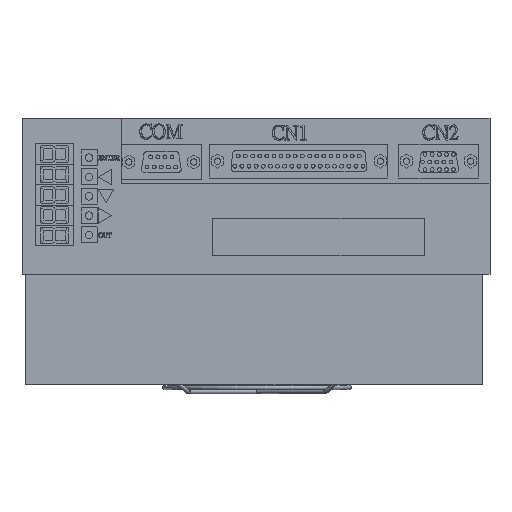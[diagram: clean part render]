
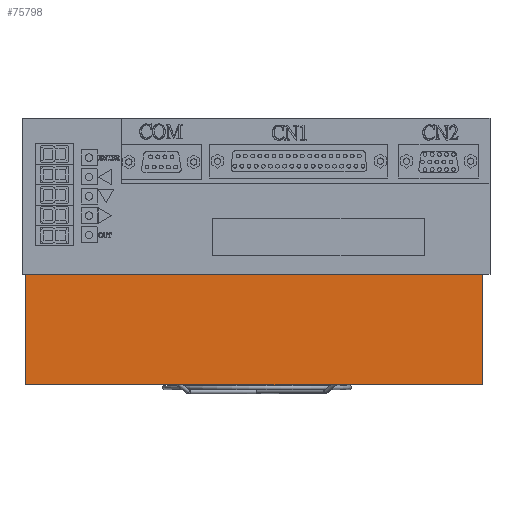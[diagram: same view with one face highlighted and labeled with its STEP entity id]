
A CAD part, front view. The second image highlights one B-rep face of the part: STEP entity #75798.
In plain terms, the highlighted planar face has unit normal (0, -1, 0).
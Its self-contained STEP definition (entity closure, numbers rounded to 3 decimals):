
#2069=ORIENTED_EDGE('',*,*,#22302,.F.);
#2070=ORIENTED_EDGE('',*,*,#22301,.F.);
#2071=ORIENTED_EDGE('',*,*,#22303,.T.);
#2072=ORIENTED_EDGE('',*,*,#22304,.T.);
#22301=EDGE_CURVE('',#32399,#32398,#39143,.T.);
#22302=EDGE_CURVE('',#32398,#32400,#39144,.T.);
#22303=EDGE_CURVE('',#32399,#32401,#39145,.T.);
#22304=EDGE_CURVE('',#32401,#32400,#39146,.T.);
#32398=VERTEX_POINT('',#100448);
#32399=VERTEX_POINT('',#100450);
#32400=VERTEX_POINT('',#100454);
#32401=VERTEX_POINT('',#100456);
#39143=LINE('',#100451,#48116);
#39144=LINE('',#100453,#48117);
#39145=LINE('',#100455,#48118);
#39146=LINE('',#100457,#48119);
#48116=VECTOR('',#83400,1000.);
#48117=VECTOR('',#83403,1000.);
#48118=VECTOR('',#83404,1000.);
#48119=VECTOR('',#83405,1000.);
#56960=EDGE_LOOP('',(#2069,#2070,#2071,#2072));
#61210=FACE_BOUND('',#56960,.T.);
#65466=PLANE('',#79195);
#75798=ADVANCED_FACE('',(#61210),#65466,.T.);
#79195=AXIS2_PLACEMENT_3D('',#100452,#83401,#83402);
#83400=DIRECTION('',(-1.,0.,0.));
#83401=DIRECTION('',(0.,-1.,0.));
#83402=DIRECTION('',(0.,0.,-1.));
#83403=DIRECTION('',(0.,0.,1.));
#83404=DIRECTION('',(0.,0.,1.));
#83405=DIRECTION('',(-1.,0.,0.));
#100448=CARTESIAN_POINT('',(0.,-134.85,0.));
#100450=CARTESIAN_POINT('',(179.5,-134.85,0.));
#100451=CARTESIAN_POINT('',(179.5,-134.85,0.));
#100452=CARTESIAN_POINT('',(179.5,-134.85,39.9));
#100453=CARTESIAN_POINT('',(0.,-134.85,39.9));
#100454=CARTESIAN_POINT('',(0.,-134.85,43.1));
#100455=CARTESIAN_POINT('',(179.5,-134.85,39.9));
#100456=CARTESIAN_POINT('',(179.5,-134.85,43.1));
#100457=CARTESIAN_POINT('',(179.5,-134.85,43.1));
